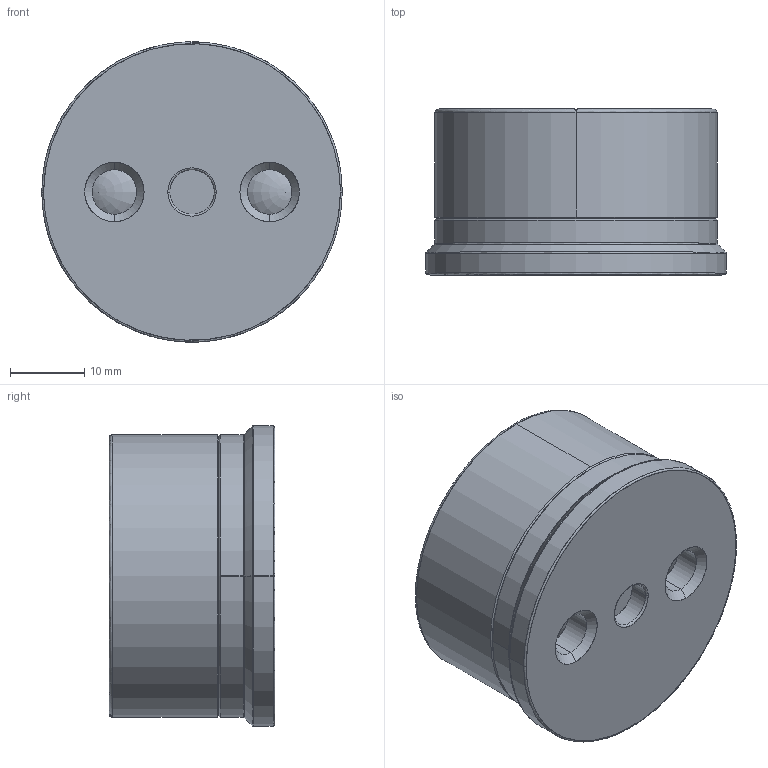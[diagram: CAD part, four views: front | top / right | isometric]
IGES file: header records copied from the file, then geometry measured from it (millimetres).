
Start section: SolidWorks IGES file using analytic representation for surfaces
Global section: file name: Z:\g2 CAD\EREZ PDM TMP\IGS tests\BC0500-OTX-A101 V TOP Half Pack.IGS; native system: SolidWorks 2015; preprocessor: SolidWorks 2015; author: meekGee; date: 160113.221051; units: millimetre
Bounding box: 40.5 x 22.37 x 40.5 mm (x, y, z)
Surface area: 12959.7 mm2 (no closed solid volume)
Topology: 0 solids, 0 shells, 228 faces, 2786 edges, 2768 vertices
Faces by surface type: bspline 118, revolution 110
